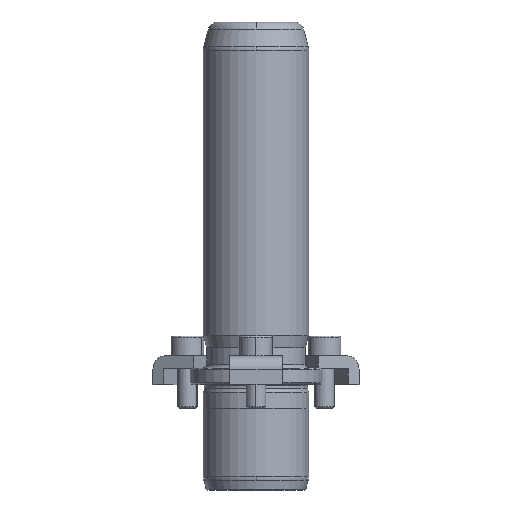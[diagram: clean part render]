
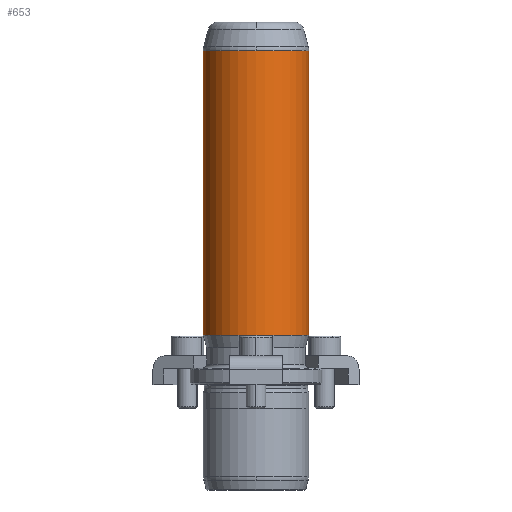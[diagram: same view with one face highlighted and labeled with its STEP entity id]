
A CAD part, front view. The second image highlights one B-rep face of the part: STEP entity #653.
In plain terms, the highlighted cylindrical face has radius 16 mm (diameter 32 mm), a partial arc.
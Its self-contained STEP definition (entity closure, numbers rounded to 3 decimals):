
#566=CARTESIAN_POINT('',(0.0,-16.,101.342));
#567=VERTEX_POINT('',#566);
#594=CARTESIAN_POINT('',(-16.0,0.,101.342));
#595=VERTEX_POINT('',#594);
#603=CARTESIAN_POINT('',(0.0,0.,101.342));
#604=DIRECTION('',(0.0,0.0,1.0));
#605=DIRECTION('',(1.0,0.0,0.0));
#606=AXIS2_PLACEMENT_3D('',#603,#604,#605);
#607=CIRCLE('',#606,16.0);
#608=EDGE_CURVE('',#595,#567,#607,.T.);
#613=CARTESIAN_POINT('',(0.0,0.,58.171));
#614=DIRECTION('',(0.0,0.,1.0));
#615=DIRECTION('',(1.0,0.0,0.0));
#616=AXIS2_PLACEMENT_3D('',#613,#614,#615);
#617=CYLINDRICAL_SURFACE('',#616,16.0);
#618=CARTESIAN_POINT('',(16.0,0.,101.342));
#619=VERTEX_POINT('',#618);
#620=CARTESIAN_POINT('',(16.0,0.,15.0));
#621=VERTEX_POINT('',#620);
#622=CARTESIAN_POINT('',(16.0,0.,101.342));
#623=DIRECTION('',(0.0,0.0,-1.0));
#624=VECTOR('',#623,86.342);
#625=LINE('',#622,#624);
#626=EDGE_CURVE('',#619,#621,#625,.T.);
#627=ORIENTED_EDGE('',*,*,#626,.F.);
#628=CARTESIAN_POINT('',(0.0,0.,101.342));
#629=DIRECTION('',(0.0,0.0,1.0));
#630=DIRECTION('',(1.0,0.0,0.0));
#631=AXIS2_PLACEMENT_3D('',#628,#629,#630);
#632=CIRCLE('',#631,16.0);
#633=EDGE_CURVE('',#567,#619,#632,.T.);
#634=ORIENTED_EDGE('',*,*,#633,.F.);
#635=ORIENTED_EDGE('',*,*,#608,.F.);
#636=CARTESIAN_POINT('',(-16.0,0.,15.0));
#637=VERTEX_POINT('',#636);
#638=CARTESIAN_POINT('',(-16.0,0.,101.342));
#639=DIRECTION('',(0.0,0.0,-1.0));
#640=VECTOR('',#639,86.342);
#641=LINE('',#638,#640);
#642=EDGE_CURVE('',#595,#637,#641,.T.);
#643=ORIENTED_EDGE('',*,*,#642,.T.);
#644=CARTESIAN_POINT('',(0.0,0.,15.0));
#645=DIRECTION('',(0.0,0.0,1.0));
#646=DIRECTION('',(1.0,0.0,0.0));
#647=AXIS2_PLACEMENT_3D('',#644,#645,#646);
#648=CIRCLE('',#647,16.0);
#649=EDGE_CURVE('',#637,#621,#648,.T.);
#650=ORIENTED_EDGE('',*,*,#649,.T.);
#651=EDGE_LOOP('',(#627,#634,#635,#643,#650));
#652=FACE_OUTER_BOUND('',#651,.T.);
#653=ADVANCED_FACE('',(#652),#617,.T.);
